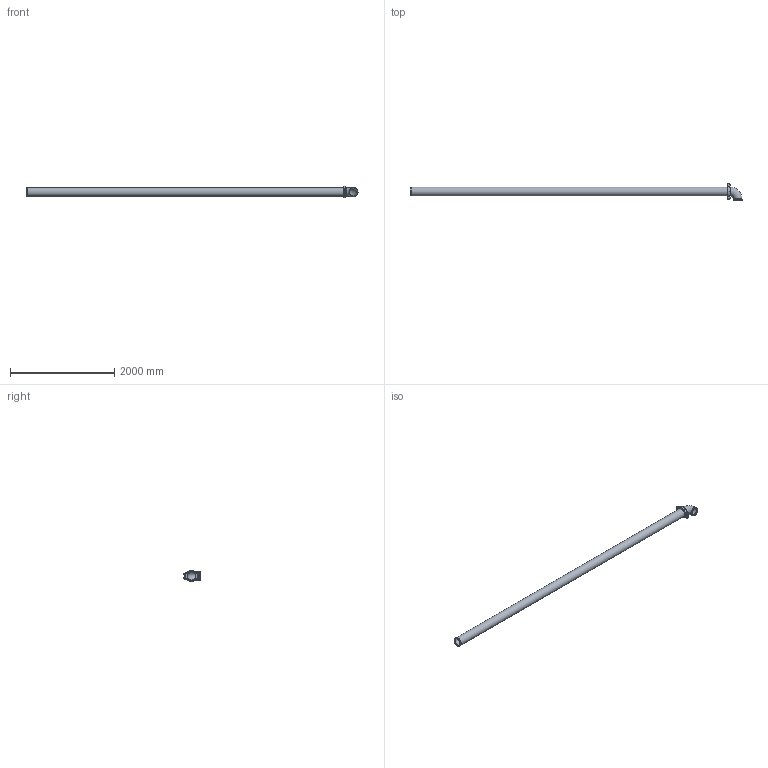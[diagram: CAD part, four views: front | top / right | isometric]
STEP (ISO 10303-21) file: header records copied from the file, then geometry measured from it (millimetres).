
FILE_DESCRIPTION(/* description */ ('VIC LONG RUN FITTING No R20 (OGS)','CAx-IF Rec.Pracs.---Representation and Presentation of Product Manufacturing Information (PMI)---4.0---2014-10-13'),/* implementation_level */ '2;1');
FILE_NAME(/* name */ 'C:\Users\Vjadhav\AppData\Roaming\Autodesk\ApplicationPlugins\Back Up\Victaulic_IPS_Long Run Fittings_No R20 (OGS)\Victaulic_IPS_Long Run Fittings_No R20 (OGS)_6 (150).stp',/* time_stamp */ '2020-10-06T19:45:59+05:00',/* author */ ('Vjadhav'),/* organization */ ('Victaulic'),/* preprocessor_version */ 'ST-DEVELOPER v17.2',/* originating_system */ 'Autodesk Inventor 2019',/* authorisation */ '');
FILE_SCHEMA (('AP242_MANAGED_MODEL_BASED_3D_ENGINEERING_MIM_LF { 1 0 10303 442 1 1 4 }'));
Length unit declared in the file: inch
Products named in the file (4): R20-06.0; 010-06.0; 177N-06.0; Pipe_R10-06.0
Assembly tree (3 placements, depth 2):
  R20-06.0
    010-06.0
    177N-06.0
    Pipe_R10-06.0
Bounding box: 6354.89 x 312.15 x 218.43 mm (x, y, z)
Volume: 24165438.9 mm3; surface area: 6627070.8 mm2
Topology: 3 solids, 3 shells, 117 faces, 305 edges, 206 vertices
Faces by surface type: plane 68, cylinder 37, torus 6, cone 4, sphere 2
Full cylindrical faces by diameter (mm): 19.05 x2, 37.694 x2, 154.051 x3, 155.575 x1, 163.957 x4, 168.275 x7
Entity records: 4268 total; most frequent: CARTESIAN_POINT 971, DIRECTION 661, ORIENTED_EDGE 618, EDGE_CURVE 309, AXIS2_PLACEMENT_3D 248, VERTEX_POINT 206, LINE 165, VECTOR 165
